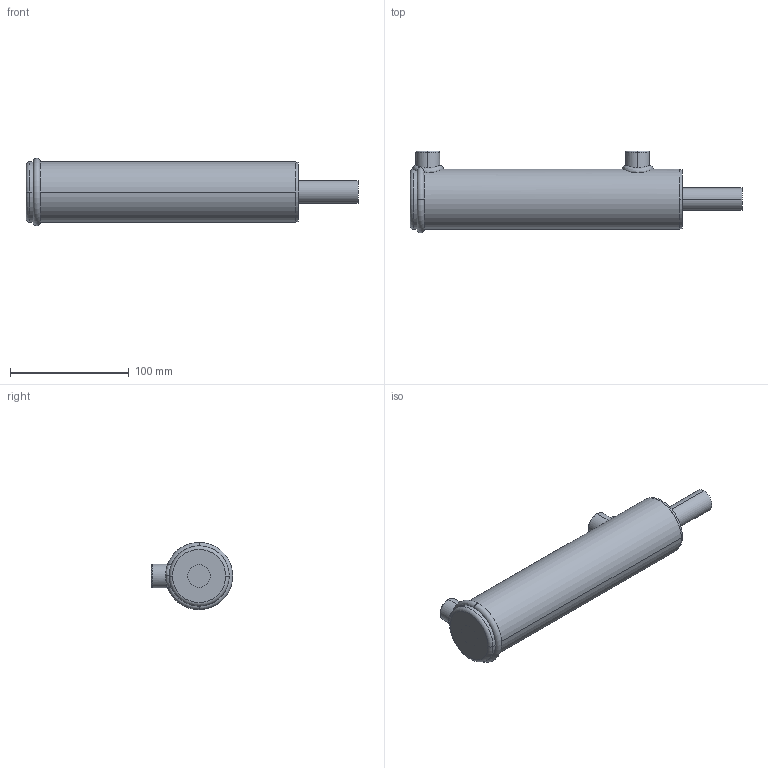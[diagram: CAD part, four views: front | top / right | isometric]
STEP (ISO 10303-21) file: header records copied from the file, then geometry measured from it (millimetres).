
FILE_DESCRIPTION (( 'STEP AP203' ), '1' );
FILE_NAME ('BL150075x152 (6).STEP', '2014-11-23T02:07:48', ( '' ), ( '' ), 'SwSTEP 2.0', 'SolidWorks 2014', '' );
FILE_SCHEMA (( 'CONFIG_CONTROL_DESIGN' ));
Length unit declared in the file: millimetre
Products named in the file (1): BL150075x152 (6)
Bounding box: 280 x 68.8 x 56.8 mm (x, y, z)
Volume: 418918.4 mm3; surface area: 62551.7 mm2
Topology: 2 solids, 2 shells, 64 faces, 146 edges, 90 vertices
Faces by surface type: cylinder 20, torus 16, plane 12, bspline 8, cone 8
Entity records: 4329 total; most frequent: CARTESIAN_POINT 2883, DIRECTION 288, ORIENTED_EDGE 284, EDGE_CURVE 142, AXIS2_PLACEMENT_3D 130, VERTEX_POINT 90, CIRCLE 73, EDGE_LOOP 72
